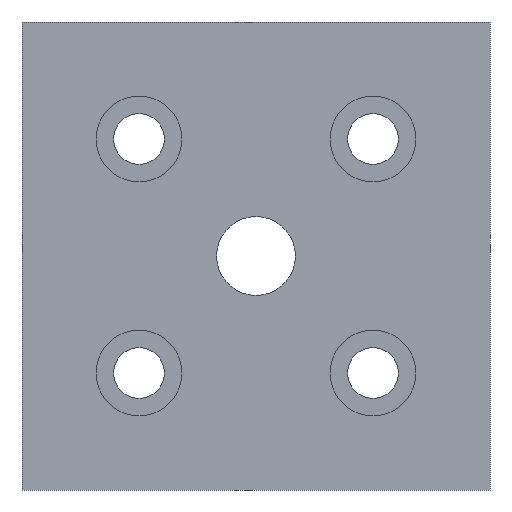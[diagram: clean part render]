
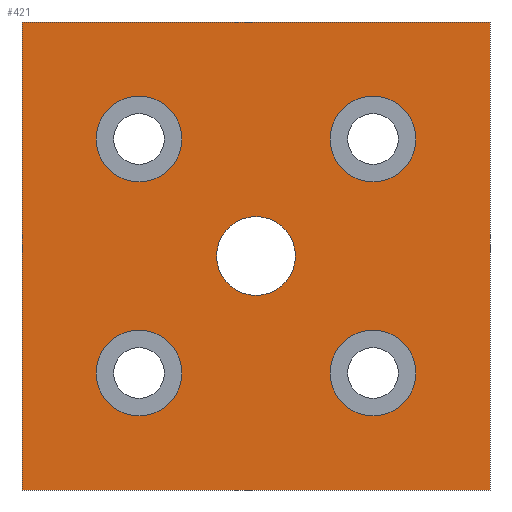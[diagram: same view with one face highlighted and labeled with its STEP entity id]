
A CAD part, front view. The second image highlights one B-rep face of the part: STEP entity #421.
In plain terms, the highlighted planar face has unit normal (0, -1, 0).
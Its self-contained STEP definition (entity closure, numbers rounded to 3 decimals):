
#34=CIRCLE('',#451,5.053);
#35=CIRCLE('',#452,5.5);
#36=CIRCLE('',#453,5.5);
#37=CIRCLE('',#454,5.5);
#38=CIRCLE('',#455,5.5);
#72=ORIENTED_EDGE('',*,*,#124,.T.);
#73=ORIENTED_EDGE('',*,*,#125,.T.);
#74=ORIENTED_EDGE('',*,*,#126,.T.);
#75=ORIENTED_EDGE('',*,*,#127,.T.);
#76=ORIENTED_EDGE('',*,*,#128,.T.);
#77=ORIENTED_EDGE('',*,*,#107,.F.);
#78=ORIENTED_EDGE('',*,*,#117,.F.);
#79=ORIENTED_EDGE('',*,*,#114,.F.);
#80=ORIENTED_EDGE('',*,*,#111,.F.);
#107=EDGE_CURVE('',#137,#138,#163,.T.);
#111=EDGE_CURVE('',#138,#141,#167,.T.);
#114=EDGE_CURVE('',#141,#143,#170,.T.);
#117=EDGE_CURVE('',#143,#137,#173,.T.);
#124=EDGE_CURVE('',#150,#150,#34,.T.);
#125=EDGE_CURVE('',#151,#151,#35,.T.);
#126=EDGE_CURVE('',#152,#152,#36,.T.);
#127=EDGE_CURVE('',#153,#153,#37,.T.);
#128=EDGE_CURVE('',#154,#154,#38,.T.);
#137=VERTEX_POINT('',#568);
#138=VERTEX_POINT('',#569);
#141=VERTEX_POINT('',#577);
#143=VERTEX_POINT('',#583);
#150=VERTEX_POINT('',#603);
#151=VERTEX_POINT('',#605);
#152=VERTEX_POINT('',#607);
#153=VERTEX_POINT('',#609);
#154=VERTEX_POINT('',#611);
#163=LINE('',#567,#175);
#167=LINE('',#576,#179);
#170=LINE('',#582,#182);
#173=LINE('',#588,#185);
#175=VECTOR('',#481,1000.);
#179=VECTOR('',#487,1000.);
#182=VECTOR('',#492,1000.);
#185=VECTOR('',#497,1000.);
#197=EDGE_LOOP('',(#72));
#198=EDGE_LOOP('',(#73));
#199=EDGE_LOOP('',(#74));
#200=EDGE_LOOP('',(#75));
#201=EDGE_LOOP('',(#76));
#202=EDGE_LOOP('',(#77,#78,#79,#80));
#239=FACE_BOUND('',#197,.T.);
#240=FACE_BOUND('',#198,.T.);
#241=FACE_BOUND('',#199,.T.);
#242=FACE_BOUND('',#200,.T.);
#243=FACE_BOUND('',#201,.T.);
#244=FACE_BOUND('',#202,.T.);
#276=PLANE('',#450);
#421=ADVANCED_FACE('',(#239,#240,#241,#242,#243,#244),#276,.F.);
#450=AXIS2_PLACEMENT_3D('',#601,#511,#512);
#451=AXIS2_PLACEMENT_3D('',#602,#513,#514);
#452=AXIS2_PLACEMENT_3D('',#604,#515,#516);
#453=AXIS2_PLACEMENT_3D('',#606,#517,#518);
#454=AXIS2_PLACEMENT_3D('',#608,#519,#520);
#455=AXIS2_PLACEMENT_3D('',#610,#521,#522);
#481=DIRECTION('',(0.,0.,1.));
#487=DIRECTION('',(1.,0.,0.));
#492=DIRECTION('',(0.,0.,-1.));
#497=DIRECTION('',(-1.,0.,0.));
#511=DIRECTION('',(0.,1.,0.));
#512=DIRECTION('',(0.,0.,1.));
#513=DIRECTION('',(0.,1.,0.));
#514=DIRECTION('',(0.,0.,-1.));
#515=DIRECTION('',(0.,1.,0.));
#516=DIRECTION('',(0.,0.,-1.));
#517=DIRECTION('',(0.,1.,0.));
#518=DIRECTION('',(0.,0.,-1.));
#519=DIRECTION('',(0.,1.,0.));
#520=DIRECTION('',(0.,0.,-1.));
#521=DIRECTION('',(0.,1.,0.));
#522=DIRECTION('',(0.,0.,-1.));
#567=CARTESIAN_POINT('',(0.,0.,0.));
#568=CARTESIAN_POINT('',(0.,0.,0.));
#569=CARTESIAN_POINT('',(0.,0.,60.));
#576=CARTESIAN_POINT('',(0.,0.,60.));
#577=CARTESIAN_POINT('',(60.,0.,60.));
#582=CARTESIAN_POINT('',(60.,0.,60.));
#583=CARTESIAN_POINT('',(60.,0.,0.));
#588=CARTESIAN_POINT('',(60.,0.,0.));
#601=CARTESIAN_POINT('',(0.,0.,0.));
#602=CARTESIAN_POINT('',(30.,0.,30.));
#603=CARTESIAN_POINT('',(30.,0.,24.947));
#604=CARTESIAN_POINT('',(15.,0.,15.));
#605=CARTESIAN_POINT('',(15.,0.,9.5));
#606=CARTESIAN_POINT('',(45.,0.,15.));
#607=CARTESIAN_POINT('',(45.,0.,9.5));
#608=CARTESIAN_POINT('',(45.,0.,45.));
#609=CARTESIAN_POINT('',(45.,0.,39.5));
#610=CARTESIAN_POINT('',(15.,0.,45.));
#611=CARTESIAN_POINT('',(15.,0.,39.5));
